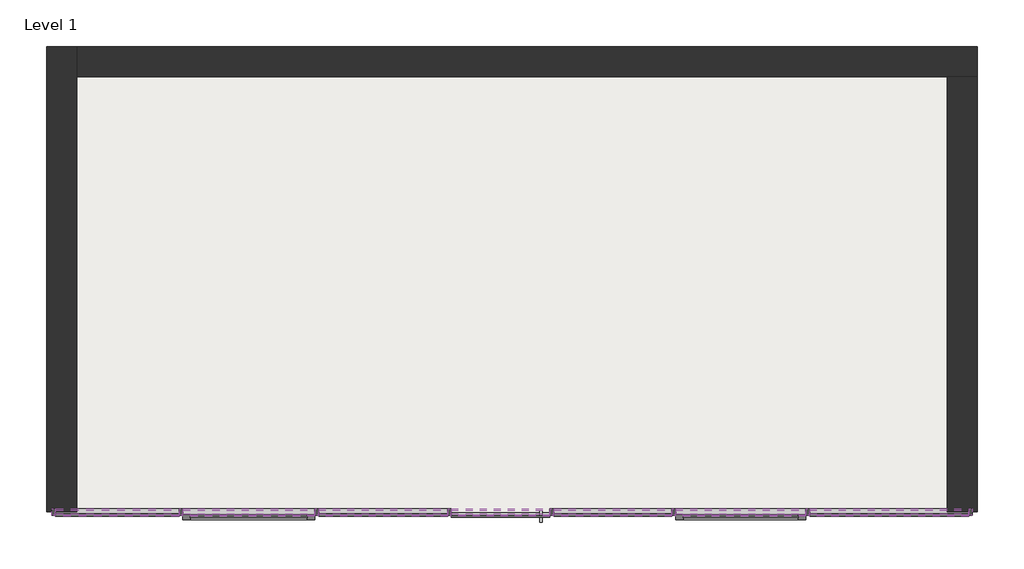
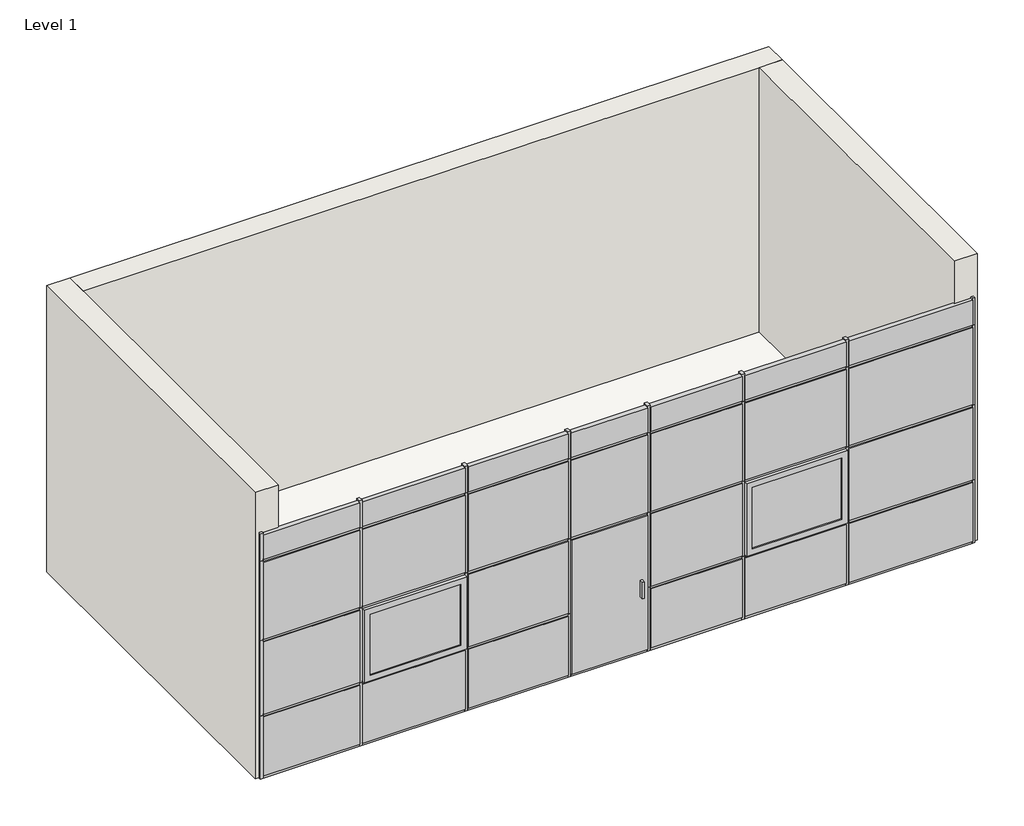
# One storey: 59 members, 27 plates, 3 walls, 1 slab.
"""IFC4 building model written with IfcOpenShell, lengths in millimetres."""

from ifc_helpers import new_model, si_unit, origin, origin_with_axes, place, context, project, spatial, polyline, outline, extrude, faceted_brep, transform, mapped, element, save
from components import member_81ac959f, member_ceac087d, member_30a30662, member_d2fca8fe, member_1e49c14f, member_4dc6d254, member_d2efc580, member_c95b2b18, member_c7dc9f29, member_a1a33733, member_befc88b7, member_328ab8e7, member_a4666cf0, member_f6a0a9c4, member_eeb7ee56, member_d86648b7, member_30d5bf22, member_62c71373, member_ce78e4f5, member_e0b1815d, member_3bdf2bed, member_e7d80e20, curtain_wall_awning_curtain_wall_awning_fddd8c55, curtain_wall_awning_curtain_wall_awning_54adacab, curtain_wall_sgl_glass_curtain_wall_sgl_glass_a995fd96, system_panel_glazed_be437bdd, system_panel_glazed_8fd09393, system_panel_glazed_fcc6e020, system_panel_glazed_b719fd4d, system_panel_glazed_20414516, system_panel_glazed_f862e6b4, system_panel_glazed_5aa6dd2a, system_panel_glazed_132a59f4, system_panel_glazed_afd70c25, system_panel_glazed_4de0baa6, system_panel_glazed_09297d85, system_panel_glazed_ea4a5331, system_panel_glazed_1dc7f260, system_panel_glazed_eae3761b, system_panel_glazed_07bf58b3, system_panel_glazed_cbf84620, system_panel_glazed_a31c2437, system_panel_solid_7cf5abf2, system_panel_solid_982d0824, system_panel_solid_cdb325b2, system_panel_solid_5eed64b9, system_panel_solid_5dc2b9f5, system_panel_solid_766daeeb, system_panel_solid_9e3d8ea0

model = new_model("IFC4")

# Units and contexts
model_context = context("Model", 3, world=origin())
ifc_project = project(units=[si_unit("LENGTHUNIT", "METRE", prefix="MILLI")], contexts=[model_context])

# Site, building, storey
site = spatial("IfcSite", under=ifc_project)
building = spatial("IfcBuilding", under=site)
storey = spatial("IfcBuildingStorey", under=building, Name="Level 1", Elevation=0.0)

# Members
placement = place(None, origin())
member_shape = member_81ac959f(model_context)
element("IfcMember", 1, ObjectType="Rectangular Mullion : 1.5\" x 2.5\" rectangular", at=placement, inside=storey, context=model_context, shape_type="MappedRepresentation", body=[
    mapped(member_shape, transform((1991.0440625, 909.2024759, 1910.5835323), x_axis=(0.0, 0.0, 1.0), y_axis=(0.0, 1.0, 0.0), z_axis=(-1.0, 0.0, 0.0))),
])
element("IfcMember", 2, ObjectType="Rectangular Mullion : 1.5\" x 2.5\" rectangular", at=placement, inside=storey, context=model_context, shape_type="MappedRepresentation", body=[
    mapped(member_shape, transform((1991.0440625, 909.2024759, 871.864222), x_axis=(0.0, 0.0, 1.0), y_axis=(0.0, 1.0, 0.0), z_axis=(-1.0, 0.0, 0.0))),
])
element("IfcMember", 3, ObjectType="Rectangular Mullion : 1.5\" x 2.5\" rectangular", at=placement, inside=storey, context=model_context, shape_type="MappedRepresentation", body=[
    mapped(member_shape, transform((1991.0440625, 909.2024759, 3014.7602408), x_axis=(0.0, 0.0, 1.0), y_axis=(0.0, 1.0, 0.0), z_axis=(-1.0, 0.0, 0.0))),
])
member_2_shape = member_ceac087d(model_context)
element("IfcMember", 4, ObjectType="Rectangular Mullion : 1.5\" x 2.5\" rectangular", at=placement, inside=storey, context=model_context, shape_type="MappedRepresentation", body=[
    mapped(member_2_shape, transform((953.3199377, 909.2024759, 1910.5835323), x_axis=(0.0, 0.0, 1.0), y_axis=(0.0, 1.0, 0.0), z_axis=(-1.0, 0.0, 0.0))),
])
element("IfcMember", 5, ObjectType="Rectangular Mullion : 1.5\" x 2.5\" rectangular", at=placement, inside=storey, context=model_context, shape_type="MappedRepresentation", body=[
    mapped(member_2_shape, transform((953.3199377, 909.2024759, 3014.7602408), x_axis=(0.0, 0.0, 1.0), y_axis=(0.0, 1.0, 0.0), z_axis=(-1.0, 0.0, 0.0))),
])
member_3_shape = member_30a30662(model_context)
element("IfcMember", 6, ObjectType="Rectangular Mullion : 1.5\" x 2.5\" rectangular", at=placement, inside=storey, context=model_context, shape_type="MappedRepresentation", body=[
    mapped(member_3_shape, transform((-395.6276941, 909.2024759, 1910.5835323), x_axis=(0.0, 0.0, 1.0), y_axis=(0.0, 1.0, 0.0), z_axis=(-1.0, 0.0, 0.0))),
])
element("IfcMember", 7, ObjectType="Rectangular Mullion : 1.5\" x 2.5\" rectangular", at=placement, inside=storey, context=model_context, shape_type="MappedRepresentation", body=[
    mapped(member_3_shape, transform((-395.6276941, 909.2024759, 871.864222), x_axis=(0.0, 0.0, 1.0), y_axis=(0.0, 1.0, 0.0), z_axis=(-1.0, 0.0, 0.0))),
])
element("IfcMember", 8, ObjectType="Rectangular Mullion : 1.5\" x 2.5\" rectangular", at=placement, inside=storey, context=model_context, shape_type="MappedRepresentation", body=[
    mapped(member_3_shape, transform((-395.6276941, 909.2024759, 3014.7602408), x_axis=(0.0, 0.0, 1.0), y_axis=(0.0, 1.0, 0.0), z_axis=(-1.0, 0.0, 0.0))),
])
member_4_shape = member_d2fca8fe(model_context)
element("IfcMember", 9, ObjectType="Rectangular Mullion : 1.5\" x 2.5\" rectangular", at=placement, inside=storey, context=model_context, shape_type="MappedRepresentation", body=[
    mapped(member_4_shape, transform((-1772.8050768, 909.2024759, 1910.5835323), x_axis=(0.0, 0.0, 1.0), y_axis=(0.0, 1.0, 0.0), z_axis=(-1.0, 0.0, 0.0))),
])
element("IfcMember", 10, ObjectType="Rectangular Mullion : 1.5\" x 2.5\" rectangular", at=placement, inside=storey, context=model_context, shape_type="MappedRepresentation", body=[
    mapped(member_4_shape, transform((-1772.8050768, 909.2024759, 871.864222), x_axis=(0.0, 0.0, 1.0), y_axis=(0.0, 1.0, 0.0), z_axis=(-1.0, 0.0, 0.0))),
])
element("IfcMember", 11, ObjectType="Rectangular Mullion : 1.5\" x 2.5\" rectangular", at=placement, inside=storey, context=model_context, shape_type="MappedRepresentation", body=[
    mapped(member_4_shape, transform((-1772.8050768, 909.2024759, 3014.7602408), x_axis=(0.0, 0.0, 1.0), y_axis=(0.0, 1.0, 0.0), z_axis=(-1.0, 0.0, 0.0))),
])
member_5_shape = member_1e49c14f(model_context)
element("IfcMember", 12, ObjectType="Rectangular Mullion : 1.5\" x 2.5\" rectangular", at=placement, inside=storey, context=model_context, shape_type="MappedRepresentation", body=[
    mapped(member_5_shape, transform((3229.504969, 909.2024759, 871.864222), x_axis=(0.0, 0.0, 1.0), y_axis=(0.0, 1.0, 0.0), z_axis=(-0.9999999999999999, 0.0, 0.0))),
])
element("IfcMember", 13, ObjectType="Rectangular Mullion : 1.5\" x 2.5\" rectangular", at=placement, inside=storey, context=model_context, shape_type="MappedRepresentation", body=[
    mapped(member_5_shape, transform((3229.504969, 909.2024759, 1910.5835323), x_axis=(0.0, 0.0, 1.0), y_axis=(0.0, 1.0, 0.0), z_axis=(-0.9999999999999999, 0.0, 0.0))),
])
element("IfcMember", 14, ObjectType="Rectangular Mullion : 1.5\" x 2.5\" rectangular", at=placement, inside=storey, context=model_context, shape_type="MappedRepresentation", body=[
    mapped(member_5_shape, transform((3229.504969, 909.2024759, 3014.7602408), x_axis=(0.0, 0.0, 1.0), y_axis=(0.0, 1.0, 0.0), z_axis=(-0.9999999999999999, 0.0, 0.0))),
])
member_6_shape = member_4dc6d254(model_context)
element("IfcMember", 15, ObjectType="Rectangular Mullion : 1.5\" x 2.5\" rectangular", at=placement, inside=storey, context=model_context, shape_type="MappedRepresentation", body=[
    mapped(member_6_shape, transform((-3067.6441627, 909.2024759, 1910.5835323), x_axis=(0.0, 0.0, 1.0), y_axis=(0.0, 1.0, 0.0), z_axis=(-1.0, 0.0, 0.0))),
])
element("IfcMember", 16, ObjectType="Rectangular Mullion : 1.5\" x 2.5\" rectangular", at=placement, inside=storey, context=model_context, shape_type="MappedRepresentation", body=[
    mapped(member_6_shape, transform((-3067.6441627, 909.2024759, 3014.7602408), x_axis=(0.0, 0.0, 1.0), y_axis=(0.0, 1.0, 0.0), z_axis=(-1.0, 0.0, 0.0))),
])
element("IfcMember", 17, ObjectType="Rectangular Mullion : 1.5\" x 2.5\" rectangular", at=placement, inside=storey, context=model_context, shape_type="MappedRepresentation", body=[
    mapped(member_6_shape, transform((-3067.6441627, 909.2024759, 871.864222), x_axis=(0.0, 0.0, 1.0), y_axis=(0.0, 1.0, 0.0), z_axis=(-1.0, 0.0, 0.0))),
])
member_7_shape = member_d2efc580(model_context)
element("IfcMember", 18, ObjectType="Rectangular Mullion : 1.5\" x 2.5\" rectangular", at=placement, inside=storey, context=model_context, shape_type="MappedRepresentation", body=[
    mapped(member_7_shape, transform((4589.6711015, 909.2024759, 1910.5835323), x_axis=(0.0, 0.0, 1.0), y_axis=(0.0, 1.0, 0.0), z_axis=(-1.0, 0.0, 0.0))),
])
element("IfcMember", 19, ObjectType="Rectangular Mullion : 1.5\" x 2.5\" rectangular", at=placement, inside=storey, context=model_context, shape_type="MappedRepresentation", body=[
    mapped(member_7_shape, transform((4589.6711015, 909.2024759, 3014.7602408), x_axis=(0.0, 0.0, 1.0), y_axis=(0.0, 1.0, 0.0), z_axis=(-1.0, 0.0, 0.0))),
])
element("IfcMember", 20, ObjectType="Rectangular Mullion : 1.5\" x 2.5\" rectangular", at=placement, inside=storey, context=model_context, shape_type="MappedRepresentation", body=[
    mapped(member_7_shape, transform((4589.6711015, 909.2024759, 871.864222), x_axis=(0.0, 0.0, 1.0), y_axis=(0.0, 1.0, 0.0), z_axis=(-1.0, 0.0, 0.0))),
])
member_8_shape = member_c95b2b18(model_context)
element("IfcMember", 21, ObjectType="Rectangular Mullion : 1.5\" x 2.5\" rectangular", at=placement, inside=storey, context=model_context, shape_type="MappedRepresentation", body=[
    mapped(member_8_shape, transform((6241.4558373, 909.2024759, 871.864222), x_axis=(1.0, 0.0, 0.0), y_axis=(0.0, 1.0, 0.0), z_axis=(0.0, 0.0, 1.0))),
])
member_9_shape = member_c7dc9f29(model_context)
element("IfcMember", 22, ObjectType="Rectangular Mullion : 1.5\" x 2.5\" rectangular", at=placement, inside=storey, context=model_context, shape_type="MappedRepresentation", body=[
    mapped(member_9_shape, transform((6241.4558373, 909.2024759, 1910.5835323), x_axis=(1.0, 0.0, 0.0), y_axis=(0.0, 1.0, 0.0), z_axis=(0.0, 0.0, 1.0))),
])
member_10_shape = member_a1a33733(model_context)
element("IfcMember", 23, ObjectType="Rectangular Mullion : 1.5\" x 2.5\" rectangular", at=placement, inside=storey, context=model_context, shape_type="MappedRepresentation", body=[
    mapped(member_10_shape, transform((6241.4558373, 909.2024759, 3393.8990634), x_axis=(1.0, 0.0, 0.0), y_axis=(0.0, 1.0, 0.0), z_axis=(0.0, 0.0, 1.0))),
])
member_11_shape = member_befc88b7(model_context)
element("IfcMember", 24, ObjectType="Rectangular Mullion : 1.5\" x 2.5\" rectangular", at=placement, inside=storey, context=model_context, shape_type="MappedRepresentation", body=[
    mapped(member_11_shape, transform((6241.4558373, 909.2024759, 3014.7602408), x_axis=(1.0, 0.0, 0.0), y_axis=(0.0, 1.0, 0.0), z_axis=(0.0, 0.0, 1.0))),
])
member_12_shape = member_328ab8e7(model_context)
element("IfcMember", 25, ObjectType="Rectangular Mullion : 1.5\" x 2.5\" rectangular", at=placement, inside=storey, context=model_context, shape_type="MappedRepresentation", body=[
    mapped(member_12_shape, transform((-1810.9050768, 909.2024759, 0.0), x_axis=(0.0, 0.0, -1.0), y_axis=(0.0, 1.0, 0.0), z_axis=(1.0, 0.0, 0.0))),
])
member_13_shape = member_a4666cf0(model_context)
element("IfcMember", 26, ObjectType="Rectangular Mullion : 1.5\" x 2.5\" rectangular", at=placement, inside=storey, context=model_context, shape_type="MappedRepresentation", body=[
    mapped(member_13_shape, transform((-433.7276941, 909.2024759, 0.0), x_axis=(0.0, 0.0, -1.0), y_axis=(0.0, 1.0, 0.0), z_axis=(1.0, 0.0, 0.0))),
])
member_14_shape = member_f6a0a9c4(model_context)
element("IfcMember", 27, ObjectType="Rectangular Mullion : 1.5\" x 2.5\" rectangular", at=placement, inside=storey, context=model_context, shape_type="MappedRepresentation", body=[
    mapped(member_14_shape, transform((915.2199377, 909.2024759, 0.0), x_axis=(0.0, 0.0, -1.0), y_axis=(0.0, 1.0, 0.0), z_axis=(1.0, 0.0, 0.0))),
])
member_15_shape = member_eeb7ee56(model_context)
element("IfcMember", 28, ObjectType="Rectangular Mullion : 1.5\" x 2.5\" rectangular", at=placement, inside=storey, context=model_context, shape_type="MappedRepresentation", body=[
    mapped(member_15_shape, transform((3210.454969, 909.2024759, 3014.7602408), x_axis=(-1.0, 0.0, 0.0), y_axis=(0.0, 1.0, 0.0), z_axis=(0.0, 0.0, -1.0))),
])
element("IfcMember", 29, ObjectType="Rectangular Mullion : 1.5\" x 2.5\" rectangular", at=placement, inside=storey, context=model_context, shape_type="MappedRepresentation", body=[
    mapped(member_15_shape, transform((4570.6211015, 909.2024759, 3014.7602408), x_axis=(-1.0, 0.0, 0.0), y_axis=(0.0, 1.0, 0.0), z_axis=(0.0, 0.0, -1.0))),
])
element("IfcMember", 30, ObjectType="Rectangular Mullion : 1.5\" x 2.5\" rectangular", at=placement, inside=storey, context=model_context, shape_type="MappedRepresentation", body=[
    mapped(member_15_shape, transform((934.2699377, 909.2024759, 3014.7602408), x_axis=(-1.0, 0.0, 0.0), y_axis=(0.0, 1.0, 0.0), z_axis=(0.0, 0.0, -1.0))),
])
element("IfcMember", 31, ObjectType="Rectangular Mullion : 1.5\" x 2.5\" rectangular", at=placement, inside=storey, context=model_context, shape_type="MappedRepresentation", body=[
    mapped(member_15_shape, transform((1971.9940625, 909.2024759, 3014.7602408), x_axis=(-1.0, 0.0, 0.0), y_axis=(0.0, 1.0, 0.0), z_axis=(0.0, 0.0, -1.0))),
])
element("IfcMember", 32, ObjectType="Rectangular Mullion : 1.5\" x 2.5\" rectangular", at=placement, inside=storey, context=model_context, shape_type="MappedRepresentation", body=[
    mapped(member_15_shape, transform((-1791.8550768, 909.2024759, 3014.7602408), x_axis=(-1.0, 0.0, 0.0), y_axis=(0.0, 1.0, 0.0), z_axis=(0.0, 0.0, -1.0))),
])
element("IfcMember", 33, ObjectType="Rectangular Mullion : 1.5\" x 2.5\" rectangular", at=placement, inside=storey, context=model_context, shape_type="MappedRepresentation", body=[
    mapped(member_15_shape, transform((-414.6776941, 909.2024759, 3014.7602408), x_axis=(-1.0, 0.0, 0.0), y_axis=(0.0, 1.0, 0.0), z_axis=(0.0, 0.0, -1.0))),
])
member_16_shape = member_d86648b7(model_context)
element("IfcMember", 34, ObjectType="Rectangular Mullion : 1.5\" x 2.5\" rectangular", at=placement, inside=storey, context=model_context, shape_type="MappedRepresentation", body=[
    mapped(member_16_shape, transform((4570.6211015, 909.2024759, 871.864222), x_axis=(-1.0, 0.0, 0.0), y_axis=(0.0, 1.0, 0.0), z_axis=(0.0, 0.0, -1.0))),
])
element("IfcMember", 35, ObjectType="Rectangular Mullion : 1.5\" x 2.5\" rectangular", at=placement, inside=storey, context=model_context, shape_type="MappedRepresentation", body=[
    mapped(member_16_shape, transform((934.2699377, 909.2024759, 871.864222), x_axis=(-1.0, 0.0, 0.0), y_axis=(0.0, 1.0, 0.0), z_axis=(0.0, 0.0, -1.0))),
])
element("IfcMember", 36, ObjectType="Rectangular Mullion : 1.5\" x 2.5\" rectangular", at=placement, inside=storey, context=model_context, shape_type="MappedRepresentation", body=[
    mapped(member_16_shape, transform((1971.9940625, 909.2024759, 871.864222), x_axis=(-1.0, 0.0, 0.0), y_axis=(0.0, 1.0, 0.0), z_axis=(0.0, 0.0, -1.0))),
])
element("IfcMember", 37, ObjectType="Rectangular Mullion : 1.5\" x 2.5\" rectangular", at=placement, inside=storey, context=model_context, shape_type="MappedRepresentation", body=[
    mapped(member_16_shape, transform((3210.454969, 909.2024759, 871.864222), x_axis=(-1.0, 0.0, 0.0), y_axis=(0.0, 1.0, 0.0), z_axis=(0.0, 0.0, -1.0))),
])
element("IfcMember", 38, ObjectType="Rectangular Mullion : 1.5\" x 2.5\" rectangular", at=placement, inside=storey, context=model_context, shape_type="MappedRepresentation", body=[
    mapped(member_16_shape, transform((-1791.8550768, 909.2024759, 871.864222), x_axis=(-1.0, 0.0, 0.0), y_axis=(0.0, 1.0, 0.0), z_axis=(0.0, 0.0, -1.0))),
])
element("IfcMember", 39, ObjectType="Rectangular Mullion : 1.5\" x 2.5\" rectangular", at=placement, inside=storey, context=model_context, shape_type="MappedRepresentation", body=[
    mapped(member_16_shape, transform((-414.6776941, 909.2024759, 871.864222), x_axis=(-1.0, 0.0, 0.0), y_axis=(0.0, 1.0, 0.0), z_axis=(0.0, 0.0, -1.0))),
])
member_17_shape = member_30d5bf22(model_context)
element("IfcMember", 40, ObjectType="Rectangular Mullion : 1.5\" x 2.5\" rectangular", at=placement, inside=storey, context=model_context, shape_type="MappedRepresentation", body=[
    mapped(member_17_shape, transform((4570.6211015, 909.2024759, 1910.5835323), x_axis=(-1.0, 0.0, 0.0), y_axis=(0.0, 1.0, 0.0), z_axis=(0.0, 0.0, -1.0))),
])
element("IfcMember", 41, ObjectType="Rectangular Mullion : 1.5\" x 2.5\" rectangular", at=placement, inside=storey, context=model_context, shape_type="MappedRepresentation", body=[
    mapped(member_17_shape, transform((934.2699377, 909.2024759, 1910.5835323), x_axis=(-1.0, 0.0, 0.0), y_axis=(0.0, 1.0, 0.0), z_axis=(0.0, 0.0, -0.9999999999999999))),
])
element("IfcMember", 42, ObjectType="Rectangular Mullion : 1.5\" x 2.5\" rectangular", at=placement, inside=storey, context=model_context, shape_type="MappedRepresentation", body=[
    mapped(member_17_shape, transform((1971.9940625, 909.2024759, 1910.5835323), x_axis=(-1.0, 0.0, 0.0), y_axis=(0.0, 1.0, 0.0), z_axis=(0.0, 0.0, -1.0))),
])
element("IfcMember", 43, ObjectType="Rectangular Mullion : 1.5\" x 2.5\" rectangular", at=placement, inside=storey, context=model_context, shape_type="MappedRepresentation", body=[
    mapped(member_17_shape, transform((3210.454969, 909.2024759, 1910.5835323), x_axis=(-1.0, 0.0, 0.0), y_axis=(0.0, 1.0, 0.0), z_axis=(0.0, 0.0, -1.0))),
])
element("IfcMember", 44, ObjectType="Rectangular Mullion : 1.5\" x 2.5\" rectangular", at=placement, inside=storey, context=model_context, shape_type="MappedRepresentation", body=[
    mapped(member_17_shape, transform((-1791.8550768, 909.2024759, 1910.5835323), x_axis=(-1.0, 0.0, 0.0), y_axis=(0.0, 1.0, 0.0), z_axis=(0.0, 0.0, -1.0))),
])
element("IfcMember", 45, ObjectType="Rectangular Mullion : 1.5\" x 2.5\" rectangular", at=placement, inside=storey, context=model_context, shape_type="MappedRepresentation", body=[
    mapped(member_17_shape, transform((-414.6776941, 909.2024759, 1910.5835323), x_axis=(-1.0, 0.0, 0.0), y_axis=(0.0, 1.0, 0.0), z_axis=(0.0, 0.0, -1.0))),
])
member_18_shape = member_62c71373(model_context)
element("IfcMember", 46, ObjectType="Rectangular Mullion : 1.5\" x 2.5\" rectangular", at=placement, inside=storey, context=model_context, shape_type="MappedRepresentation", body=[
    mapped(member_18_shape, transform((-1791.8550768, 909.2024759, 0.0), x_axis=(-1.0, 0.0, 0.0), y_axis=(0.0, 1.0, 0.0), z_axis=(0.0, 0.0, -1.0))),
])
element("IfcMember", 47, ObjectType="Rectangular Mullion : 1.5\" x 2.5\" rectangular", at=placement, inside=storey, context=model_context, shape_type="MappedRepresentation", body=[
    mapped(member_18_shape, transform((-414.6776941, 909.2024759, 0.0), x_axis=(-1.0, 0.0, 0.0), y_axis=(0.0, 1.0, 0.0), z_axis=(0.0, 0.0, -1.0))),
])
element("IfcMember", 48, ObjectType="Rectangular Mullion : 1.5\" x 2.5\" rectangular", at=placement, inside=storey, context=model_context, shape_type="MappedRepresentation", body=[
    mapped(member_18_shape, transform((934.2699377, 909.2024759, 0.0), x_axis=(-1.0, 0.0, 0.0), y_axis=(0.0, 1.0, 0.0), z_axis=(0.0, 0.0, -1.0))),
])
element("IfcMember", 49, ObjectType="Rectangular Mullion : 1.5\" x 2.5\" rectangular", at=placement, inside=storey, context=model_context, shape_type="MappedRepresentation", body=[
    mapped(member_18_shape, transform((1971.9940625, 909.2024759, 0.0), x_axis=(-1.0, 0.0, 0.0), y_axis=(0.0, 1.0, 0.0), z_axis=(0.0, 0.0, -1.0))),
])
element("IfcMember", 50, ObjectType="Rectangular Mullion : 1.5\" x 2.5\" rectangular", at=placement, inside=storey, context=model_context, shape_type="MappedRepresentation", body=[
    mapped(member_18_shape, transform((3210.454969, 909.2024759, 0.0), x_axis=(-1.0, 0.0, 0.0), y_axis=(0.0, 1.0, 0.0), z_axis=(0.0, 0.0, -1.0))),
])
element("IfcMember", 51, ObjectType="Rectangular Mullion : 1.5\" x 2.5\" rectangular", at=placement, inside=storey, context=model_context, shape_type="MappedRepresentation", body=[
    mapped(member_18_shape, transform((4570.6211015, 909.2024759, 0.0), x_axis=(-1.0, 0.0, 0.0), y_axis=(0.0, 1.0, 0.0), z_axis=(0.0, 0.0, -1.0))),
])
element("IfcMember", 52, ObjectType="Rectangular Mullion : 1.5\" x 2.5\" rectangular", at=placement, inside=storey, context=model_context, shape_type="MappedRepresentation", body=[
    mapped(member_8_shape, transform((-3105.7441627, 909.2024759, 0.0), x_axis=(-1.0, 0.0, 0.0), y_axis=(0.0, 1.0, 0.0), z_axis=(0.0, 0.0, -1.0))),
])
member_19_shape = member_ce78e4f5(model_context)
element("IfcMember", 53, ObjectType="Rectangular Mullion : 1.5\" x 2.5\" rectangular", at=placement, inside=storey, context=model_context, shape_type="MappedRepresentation", body=[
    mapped(member_19_shape, transform((6203.3558373, 909.2024759, 0.0), x_axis=(0.0, 0.0, -1.0), y_axis=(0.0, 1.0, 0.0), z_axis=(1.0, 0.0, 0.0))),
])
member_20_shape = member_e0b1815d(model_context)
element("IfcMember", 54, ObjectType="Rectangular Mullion : 1.5\" x 2.5\" rectangular", at=placement, inside=storey, context=model_context, shape_type="MappedRepresentation", body=[
    mapped(member_20_shape, transform((1952.9440625, 909.2024759, 0.0), x_axis=(0.0, 0.0, -1.0), y_axis=(0.0, 1.0, 0.0), z_axis=(1.0, 0.0, 0.0))),
])
member_21_shape = member_3bdf2bed(model_context)
element("IfcMember", 55, ObjectType="Rectangular Mullion : 1.5\" x 2.5\" rectangular", at=placement, inside=storey, context=model_context, shape_type="MappedRepresentation", body=[
    mapped(member_21_shape, transform((3191.404969, 909.2024759, 0.0), x_axis=(0.0, 0.0, -1.0), y_axis=(0.0, 1.0, 0.0), z_axis=(1.0, 0.0, 0.0))),
])
member_22_shape = member_e7d80e20(model_context)
element("IfcMember", 56, ObjectType="Rectangular Mullion : 1.5\" x 2.5\" rectangular", at=placement, inside=storey, context=model_context, shape_type="MappedRepresentation", body=[
    mapped(member_22_shape, transform((4551.5711015, 909.2024759, 0.0), x_axis=(0.0, 0.0, -1.0), y_axis=(0.0, 1.0, 0.0), z_axis=(1.0, 0.0, 0.0))),
])
element("IfcMember", 57, ObjectType="Rectangular Mullion : 1.5\" x 2.5\" rectangular", at=placement, inside=storey, context=model_context, shape_type="MappedRepresentation", body=[
    mapped(member_9_shape, transform((-3105.7441627, 909.2024759, 871.864222), x_axis=(-1.0, 0.0, 0.0), y_axis=(0.0, 1.0, 0.0), z_axis=(0.0, 0.0, -0.9999999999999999))),
])
element("IfcMember", 58, ObjectType="Rectangular Mullion : 1.5\" x 2.5\" rectangular", at=placement, inside=storey, context=model_context, shape_type="MappedRepresentation", body=[
    mapped(member_11_shape, transform((-3105.7441627, 909.2024759, 1910.5835323), x_axis=(-1.0, 0.0, 0.0), y_axis=(0.0, 1.0, 0.0), z_axis=(0.0, 0.0, -0.9999999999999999))),
])
element("IfcMember", 59, ObjectType="Rectangular Mullion : 1.5\" x 2.5\" rectangular", at=placement, inside=storey, context=model_context, shape_type="MappedRepresentation", body=[
    mapped(member_10_shape, transform((-3105.7441627, 909.2024759, 3014.7602408), x_axis=(-1.0, 0.0, 0.0), y_axis=(0.0, 1.0, 0.0), z_axis=(0.0, 0.0, -1.0))),
])

# Plates
curtain_wall_awning_curtain_wall_awning_shape = curtain_wall_awning_curtain_wall_awning_fddd8c55(model_context)
element("IfcPlate", 60, ObjectType="Curtain Wall Awning : Curtain Wall Awning", at=placement, inside=storey, context=model_context, shape_type="MappedRepresentation", body=[
    mapped(curtain_wall_awning_curtain_wall_awning_shape, transform((-1103.2663854, 909.2024759, 890.914222), x_axis=(-1.0, 0.0, 0.0), y_axis=(0.0, -1.0, 0.0), z_axis=(0.0, 0.0, 1.0))),
])
curtain_wall_awning_curtain_wall_awning_2_shape = curtain_wall_awning_curtain_wall_awning_54adacab(model_context)
element("IfcPlate", 61, ObjectType="Curtain Wall Awning : Curtain Wall Awning", at=placement, inside=storey, context=model_context, shape_type="MappedRepresentation", body=[
    mapped(curtain_wall_awning_curtain_wall_awning_2_shape, transform((3890.5380353, 909.2024759, 890.914222), x_axis=(-1.0, 0.0, 0.0), y_axis=(0.0, -1.0, 0.0), z_axis=(0.0, 0.0, 1.0))),
])
curtain_wall_sgl_glass_curtain_wall_sgl_glass_shape = curtain_wall_sgl_glass_curtain_wall_sgl_glass_a995fd96(model_context)
element("IfcPlate", 62, ObjectType="Curtain Wall Sgl Glass : Curtain Wall Sgl Glass", at=placement, inside=storey, context=model_context, shape_type="MappedRepresentation", body=[
    mapped(curtain_wall_sgl_glass_curtain_wall_sgl_glass_shape, transform((1453.1320001, 909.2024759, 38.1), x_axis=(-1.0, 0.0, 0.0), y_axis=(0.0, -1.0, 0.0), z_axis=(0.0, 0.0, 1.0))),
])
system_panel_glazed_shape = system_panel_glazed_be437bdd(model_context)
element("IfcPlate", 63, ObjectType="System Panel : Glazed", at=placement, inside=storey, context=model_context, shape_type="MappedRepresentation", body=[
    mapped(system_panel_glazed_shape, transform((5396.5134694, 909.2024759, 38.1), x_axis=(-1.0, 0.0, 0.0), y_axis=(0.0, -1.0, 0.0), z_axis=(0.0, 0.0, 1.0))),
])
system_panel_glazed_2_shape = system_panel_glazed_8fd09393(model_context)
element("IfcPlate", 64, ObjectType="System Panel : Glazed", at=placement, inside=storey, context=model_context, shape_type="MappedRepresentation", body=[
    mapped(system_panel_glazed_2_shape, transform((5396.5134694, 909.2024759, 890.914222), x_axis=(-1.0, 0.0, 0.0), y_axis=(0.0, -1.0, 0.0), z_axis=(0.0, 0.0, 1.0))),
])
system_panel_glazed_3_shape = system_panel_glazed_fcc6e020(model_context)
element("IfcPlate", 65, ObjectType="System Panel : Glazed", at=placement, inside=storey, context=model_context, shape_type="MappedRepresentation", body=[
    mapped(system_panel_glazed_3_shape, transform((5396.5134694, 909.2024759, 1929.6335323), x_axis=(-1.0, 0.0, 0.0), y_axis=(0.0, -1.0, 0.0), z_axis=(0.0, 0.0, 1.0))),
])
system_panel_glazed_4_shape = system_panel_glazed_b719fd4d(model_context)
element("IfcPlate", 66, ObjectType="System Panel : Glazed", at=placement, inside=storey, context=model_context, shape_type="MappedRepresentation", body=[
    mapped(system_panel_glazed_4_shape, transform((-2439.2746198, 909.2024759, 38.1), x_axis=(-1.0, 0.0, 0.0), y_axis=(0.0, -1.0, 0.0), z_axis=(0.0, 0.0, 1.0))),
])
system_panel_glazed_5_shape = system_panel_glazed_20414516(model_context)
element("IfcPlate", 67, ObjectType="System Panel : Glazed", at=placement, inside=storey, context=model_context, shape_type="MappedRepresentation", body=[
    mapped(system_panel_glazed_5_shape, transform((-2439.2746198, 909.2024759, 890.914222), x_axis=(-1.0, 0.0, 0.0), y_axis=(0.0, -1.0, 0.0), z_axis=(0.0, 0.0, 1.0))),
])
system_panel_glazed_6_shape = system_panel_glazed_f862e6b4(model_context)
element("IfcPlate", 68, ObjectType="System Panel : Glazed", at=placement, inside=storey, context=model_context, shape_type="MappedRepresentation", body=[
    mapped(system_panel_glazed_6_shape, transform((-2439.2746198, 909.2024759, 1929.6335323), x_axis=(-1.0, 0.0, 0.0), y_axis=(0.0, -1.0, 0.0), z_axis=(0.0, 0.0, 1.0))),
])
system_panel_glazed_7_shape = system_panel_glazed_5aa6dd2a(model_context)
element("IfcPlate", 69, ObjectType="System Panel : Glazed", at=placement, inside=storey, context=model_context, shape_type="MappedRepresentation", body=[
    mapped(system_panel_glazed_7_shape, transform((-1103.2663854, 909.2024759, 38.1), x_axis=(-1.0, 0.0, 0.0), y_axis=(0.0, -1.0, 0.0), z_axis=(0.0, 0.0, 1.0))),
])
system_panel_glazed_8_shape = system_panel_glazed_132a59f4(model_context)
element("IfcPlate", 70, ObjectType="System Panel : Glazed", at=placement, inside=storey, context=model_context, shape_type="MappedRepresentation", body=[
    mapped(system_panel_glazed_8_shape, transform((-1103.2663854, 909.2024759, 1929.6335323), x_axis=(-1.0, 0.0, 0.0), y_axis=(0.0, -1.0, 0.0), z_axis=(0.0, 0.0, 1.0))),
])
system_panel_glazed_9_shape = system_panel_glazed_afd70c25(model_context)
element("IfcPlate", 71, ObjectType="System Panel : Glazed", at=placement, inside=storey, context=model_context, shape_type="MappedRepresentation", body=[
    mapped(system_panel_glazed_9_shape, transform((259.7961218, 909.2024759, 38.1), x_axis=(-1.0, 0.0, 0.0), y_axis=(0.0, -1.0, 0.0), z_axis=(0.0, 0.0, 1.0))),
])
system_panel_glazed_10_shape = system_panel_glazed_4de0baa6(model_context)
element("IfcPlate", 72, ObjectType="System Panel : Glazed", at=placement, inside=storey, context=model_context, shape_type="MappedRepresentation", body=[
    mapped(system_panel_glazed_10_shape, transform((259.7961218, 909.2024759, 890.914222), x_axis=(-1.0, 0.0, 0.0), y_axis=(0.0, -1.0, 0.0), z_axis=(0.0, 0.0, 1.0))),
])
system_panel_glazed_11_shape = system_panel_glazed_09297d85(model_context)
element("IfcPlate", 73, ObjectType="System Panel : Glazed", at=placement, inside=storey, context=model_context, shape_type="MappedRepresentation", body=[
    mapped(system_panel_glazed_11_shape, transform((259.7961218, 909.2024759, 1929.6335323), x_axis=(-1.0, 0.0, 0.0), y_axis=(0.0, -1.0, 0.0), z_axis=(0.0, 0.0, 1.0))),
])
system_panel_glazed_12_shape = system_panel_glazed_ea4a5331(model_context)
element("IfcPlate", 74, ObjectType="System Panel : Glazed", at=placement, inside=storey, context=model_context, shape_type="MappedRepresentation", body=[
    mapped(system_panel_glazed_12_shape, transform((1453.1320001, 909.2024759, 1929.6335323), x_axis=(-1.0, 0.0, 0.0), y_axis=(0.0, -1.0, 0.0), z_axis=(0.0, 0.0, 1.0))),
])
system_panel_glazed_13_shape = system_panel_glazed_1dc7f260(model_context)
element("IfcPlate", 75, ObjectType="System Panel : Glazed", at=placement, inside=storey, context=model_context, shape_type="MappedRepresentation", body=[
    mapped(system_panel_glazed_13_shape, transform((2591.2245158, 909.2024759, 38.1), x_axis=(-1.0, 0.0, 0.0), y_axis=(0.0, -1.0, 0.0), z_axis=(0.0, 0.0, 1.0))),
])
system_panel_glazed_14_shape = system_panel_glazed_eae3761b(model_context)
element("IfcPlate", 76, ObjectType="System Panel : Glazed", at=placement, inside=storey, context=model_context, shape_type="MappedRepresentation", body=[
    mapped(system_panel_glazed_14_shape, transform((2591.2245158, 909.2024759, 890.914222), x_axis=(-1.0, 0.0, 0.0), y_axis=(0.0, -1.0, 0.0), z_axis=(0.0, 0.0, 1.0))),
])
system_panel_glazed_15_shape = system_panel_glazed_07bf58b3(model_context)
element("IfcPlate", 77, ObjectType="System Panel : Glazed", at=placement, inside=storey, context=model_context, shape_type="MappedRepresentation", body=[
    mapped(system_panel_glazed_15_shape, transform((2591.2245158, 909.2024759, 1929.6335323), x_axis=(-1.0, 0.0, 0.0), y_axis=(0.0, -1.0, 0.0), z_axis=(0.0, 0.0, 1.0))),
])
system_panel_glazed_16_shape = system_panel_glazed_cbf84620(model_context)
element("IfcPlate", 78, ObjectType="System Panel : Glazed", at=placement, inside=storey, context=model_context, shape_type="MappedRepresentation", body=[
    mapped(system_panel_glazed_16_shape, transform((3890.5380353, 909.2024759, 38.1), x_axis=(-1.0, 0.0, 0.0), y_axis=(0.0, -1.0, 0.0), z_axis=(0.0, 0.0, 1.0))),
])
system_panel_glazed_17_shape = system_panel_glazed_a31c2437(model_context)
element("IfcPlate", 79, ObjectType="System Panel : Glazed", at=placement, inside=storey, context=model_context, shape_type="MappedRepresentation", body=[
    mapped(system_panel_glazed_17_shape, transform((3890.5380353, 909.2024759, 1929.6335323), x_axis=(-1.0, 0.0, 0.0), y_axis=(0.0, -1.0, 0.0), z_axis=(0.0, 0.0, 1.0))),
])
system_panel_solid_shape = system_panel_solid_7cf5abf2(model_context)
element("IfcPlate", 80, ObjectType="System Panel : Solid", at=placement, inside=storey, context=model_context, shape_type="MappedRepresentation", body=[
    mapped(system_panel_solid_shape, transform((5396.5134694, 909.2024759, 3033.8102408), x_axis=(-1.0, 0.0, 0.0), y_axis=(0.0, -1.0, 0.0), z_axis=(0.0, 0.0, 1.0))),
])
system_panel_solid_2_shape = system_panel_solid_982d0824(model_context)
element("IfcPlate", 81, ObjectType="System Panel : Solid", at=placement, inside=storey, context=model_context, shape_type="MappedRepresentation", body=[
    mapped(system_panel_solid_2_shape, transform((3890.5380353, 909.2024759, 3033.8102408), x_axis=(-1.0, 0.0, 0.0), y_axis=(0.0, -1.0, 0.0), z_axis=(0.0, 0.0, 1.0))),
])
system_panel_solid_3_shape = system_panel_solid_cdb325b2(model_context)
element("IfcPlate", 82, ObjectType="System Panel : Solid", at=placement, inside=storey, context=model_context, shape_type="MappedRepresentation", body=[
    mapped(system_panel_solid_3_shape, transform((2591.2245158, 909.2024759, 3033.8102408), x_axis=(-1.0, 0.0, 0.0), y_axis=(0.0, -1.0, 0.0), z_axis=(0.0, 0.0, 1.0))),
])
system_panel_solid_4_shape = system_panel_solid_5eed64b9(model_context)
element("IfcPlate", 83, ObjectType="System Panel : Solid", at=placement, inside=storey, context=model_context, shape_type="MappedRepresentation", body=[
    mapped(system_panel_solid_4_shape, transform((1453.1320001, 909.2024759, 3033.8102408), x_axis=(-1.0, 0.0, 0.0), y_axis=(0.0, -1.0, 0.0), z_axis=(0.0, 0.0, 1.0))),
])
system_panel_solid_5_shape = system_panel_solid_5dc2b9f5(model_context)
element("IfcPlate", 84, ObjectType="System Panel : Solid", at=placement, inside=storey, context=model_context, shape_type="MappedRepresentation", body=[
    mapped(system_panel_solid_5_shape, transform((259.7961218, 909.2024759, 3033.8102408), x_axis=(-1.0, 0.0, 0.0), y_axis=(0.0, -1.0, 0.0), z_axis=(0.0, 0.0, 1.0))),
])
system_panel_solid_6_shape = system_panel_solid_766daeeb(model_context)
element("IfcPlate", 85, ObjectType="System Panel : Solid", at=placement, inside=storey, context=model_context, shape_type="MappedRepresentation", body=[
    mapped(system_panel_solid_6_shape, transform((-1103.2663854, 909.2024759, 3033.8102408), x_axis=(-1.0, 0.0, 0.0), y_axis=(0.0, -1.0, 0.0), z_axis=(0.0, 0.0, 1.0))),
])
system_panel_solid_7_shape = system_panel_solid_9e3d8ea0(model_context)
element("IfcPlate", 86, ObjectType="System Panel : Solid", at=placement, inside=storey, context=model_context, shape_type="MappedRepresentation", body=[
    mapped(system_panel_solid_7_shape, transform((-2439.2746198, 909.2024759, 3033.8102408), x_axis=(-1.0, 0.0, 0.0), y_axis=(0.0, -1.0, 0.0), z_axis=(0.0, 0.0, 1.0))),
])

# Slab
element("IfcSlab", 87, ObjectType="Generic - 12\"", at=placement, inside=storey, context=model_context, shape_type="SweptSolid", body=[
    extrude(outline(polyline([(5987.4558373, 909.2024759), (-2851.7441627, 909.2024759), (-2851.7441627, 5328.8024759), (5987.4558373, 5328.8024759), (5987.4558373, 909.2024759)])), origin_with_axes(), (0.0, 0.0, 1.0), 304.8),
])

# Walls
element("IfcWall", 88, ObjectType="Generic - 12\"", at=placement, inside=storey, context=model_context, shape_type="Brep", body=[
    faceted_brep([(-2851.7441627, 909.2024759, 0.0), (-2851.7441627, 5328.8024759, 0.0), (-2851.7441627, 5633.6024759, 0.0), (-2851.7441627, 5633.6024759, 3962.4), (-2851.7441627, 5328.8024759, 3962.4), (-2851.7441627, 909.2024759, 3962.4), (-3156.5441627, 909.2024759, 0.0), (-3156.5441627, 909.2024759, 3962.4), (-3156.5441627, 5633.6024759, 3962.4), (-3156.5441627, 5633.6024759, 0.0)], [[[0, 1, 2, 3, 4, 5]], [[6, 7, 8, 9]], [[2, 1, 0, 6, 9]], [[5, 4, 3, 8, 7]], [[0, 5, 7, 6]], [[3, 2, 9, 8]]]),
])
element("IfcWall", 89, ObjectType="Generic - 12\"", at=placement, inside=storey, context=model_context, shape_type="Brep", body=[
    faceted_brep([(-2851.7441627, 5328.8024759, 0.0), (5987.4558373, 5328.8024759, 0.0), (6292.2558373, 5328.8024759, 0.0), (6292.2558373, 5328.8024759, 3962.4), (5987.4558373, 5328.8024759, 3962.4), (-2851.7441627, 5328.8024759, 3962.4), (-2851.7441627, 5633.6024759, 0.0), (-2851.7441627, 5633.6024759, 3962.4), (6292.2558373, 5633.6024759, 3962.4), (6292.2558373, 5633.6024759, 0.0)], [[[0, 1, 2, 3, 4, 5]], [[6, 7, 8, 9]], [[2, 1, 0, 6, 9]], [[5, 4, 3, 8, 7]], [[3, 2, 9, 8]], [[0, 5, 7, 6]]]),
])
element("IfcWall", 90, ObjectType="Generic - 12\"", at=placement, inside=storey, context=model_context, shape_type="SweptSolid", body=[
    extrude(outline(polyline([(5987.4558373, 909.2024759), (5987.4558373, 5328.8024759), (6292.2558373, 5328.8024759), (6292.2558373, 909.2024759), (5987.4558373, 909.2024759)])), origin_with_axes(), (0.0, 0.0, 1.0), 3962.4),
])

save(model, "model.ifc")
